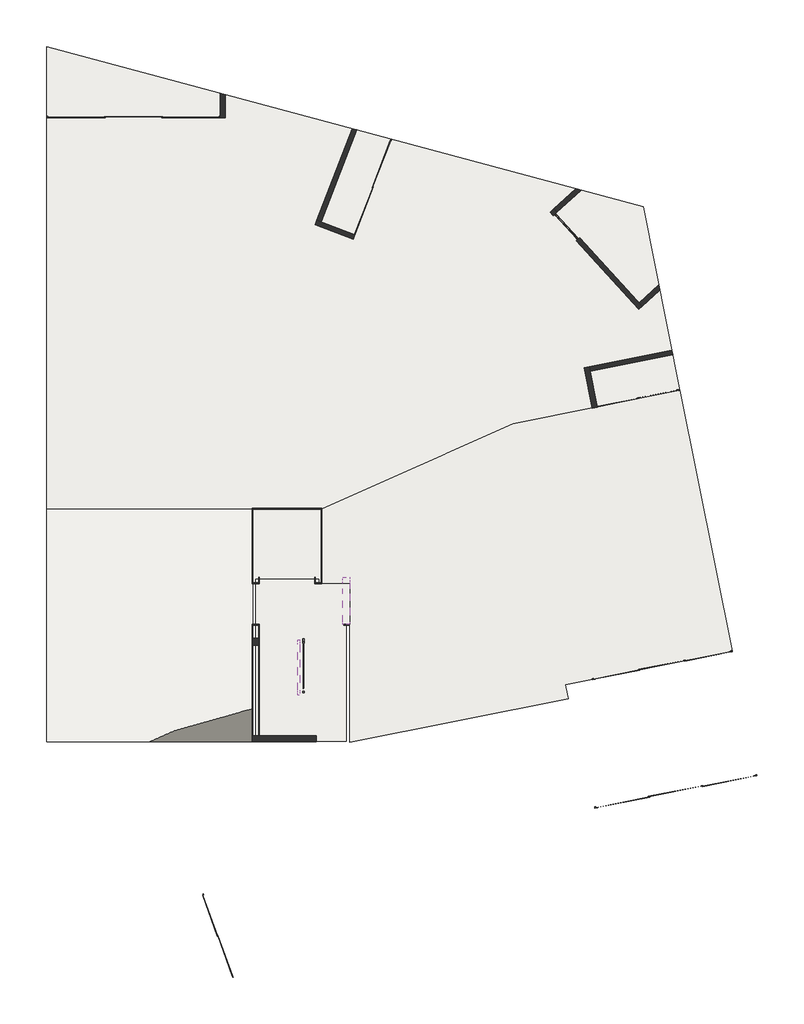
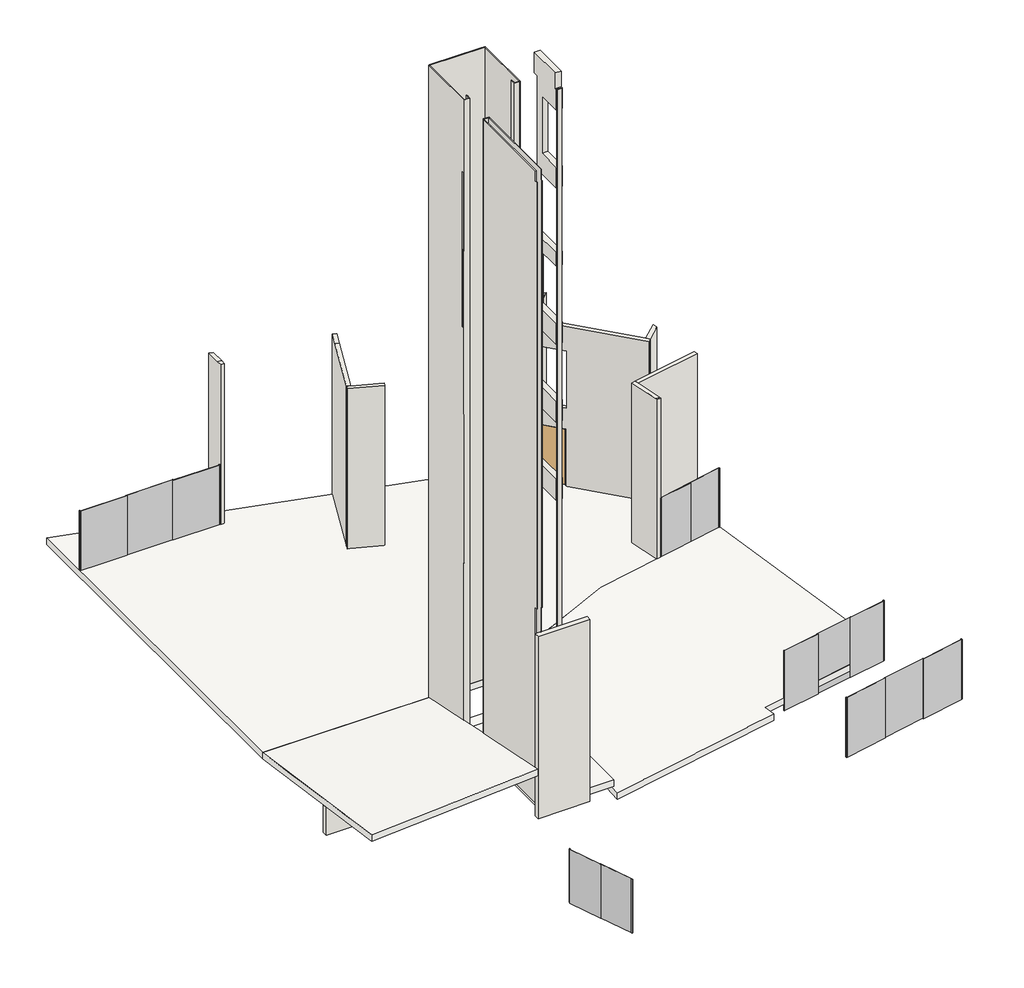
# One storey, incomplete: 22 walls, 6 furniture elements, 5 slabs, 2 railings, 1 door.
"""IFC4 building model written with IfcOpenShell, lengths in millimetres."""

from ifc_helpers import new_model, si_unit, frame, origin, place, context, project, spatial, polyline, outline, extrude, faceted_brep, transform, mapped, element, save
from ifc_brep_helpers import plane_surface, spline_surface, advanced_brep
from components import door_b94a3739, furniture_f1b7d8eb, furniture_cfb692ec, furniture_4dd8e650, furniture_5b101463, furniture_70a1527a, furniture_b4357b38, railing_b4604de3, railing_f5d033c7

model = new_model("IFC4")

# Units and contexts
model_context = context("Model", 3, world=origin())
ifc_project = project(units=[si_unit("LENGTHUNIT", "METRE", prefix="MILLI")], contexts=[model_context])

# Site, building, storey
site = spatial("IfcSite", under=ifc_project)
building = spatial("IfcBuilding", under=site)
storey = spatial("IfcBuildingStorey", under=building, Name="SÓTANO 2", Elevation=-6500.0)

# Door
placement = place(None, origin())
door_shape = door_b94a3739(model_context)
element("IfcDoor", 1, ObjectType="Puerta Metalica-lisa : PH2-Puerta Metalica lisa simple", at=placement, inside=storey, context=model_context, shape_type="MappedRepresentation", body=[
    mapped(door_shape, transform((49477.9969526, 40222.2993983, -6500.0), x_axis=(-0.6739713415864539, 0.7387574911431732, 0.0), y_axis=(-0.7387574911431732, -0.6739713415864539, 0.0), z_axis=(0.0, 0.0, 1.0))),
])

# Furniture
furniture_shape = furniture_f1b7d8eb(model_context)
element("IfcFurniture", 2, ObjectType="Puerta Closet corre 3 hojas : Puerta corrdiza 3 hojas PCLE-01", at=placement, inside=storey, context=model_context, shape_type="MappedRepresentation", body=[
    mapped(furniture_shape, transform((35474.5059119, 43346.4541486, -6500.0), x_axis=(1.0, 0.0, 0.0), y_axis=(0.0, 1.0, 0.0), z_axis=(0.0, 0.0, 1.0))),
])
furniture_2_shape = furniture_cfb692ec(model_context)
element("IfcFurniture", 3, ObjectType="Puerta Closet corre 3 hojas : Puerta corrdiza 3 hojas PCLE-04", at=placement, inside=storey, context=model_context, shape_type="MappedRepresentation", body=[
    mapped(furniture_2_shape, transform((51525.4137061, 27065.8247828, -7472.6920924), x_axis=(0.9805261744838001, 0.19638844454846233, 0.0), y_axis=(-0.19638844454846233, 0.9805261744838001, 0.0), z_axis=(0.0, 0.0, 1.0))),
])
furniture_3_shape = furniture_4dd8e650(model_context)
element("IfcFurniture", 4, ObjectType="Puerta Closet corre 3 hojas : Puerta corrdiza 3 hojas PCLE-05", at=placement, inside=storey, context=model_context, shape_type="MappedRepresentation", body=[
    mapped(furniture_3_shape, transform((51599.0261829, 23286.6871558, -7000.0), x_axis=(0.9805261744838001, 0.19638844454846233, 0.0), y_axis=(-0.19638844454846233, 0.9805261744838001, 0.0), z_axis=(0.0, 0.0, 1.0))),
])
furniture_4_shape = furniture_5b101463(model_context)
element("IfcFurniture", 5, ObjectType="Puerta Closet corre 2 hojas : Puerta corrdiza 2 hojas PCLE-02", at=placement, inside=storey, context=model_context, shape_type="MappedRepresentation", body=[
    mapped(furniture_4_shape, transform((44066.2505048, 41850.3583387, -6500.0), x_axis=(0.36197507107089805, 0.9321877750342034, 0.0), y_axis=(-0.9321877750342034, 0.36197507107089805, 0.0), z_axis=(0.0, 0.0, 1.0))),
])
furniture_5_shape = furniture_70a1527a(model_context)
element("IfcFurniture", 6, ObjectType="Puerta Closet corre 2 hojas : Puerta corrdiza 2 hojas PCLE-03", at=placement, inside=storey, context=model_context, shape_type="MappedRepresentation", body=[
    mapped(furniture_5_shape, transform((52142.5706861, 35186.7782889, -6500.0), x_axis=(0.98052617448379, 0.1963884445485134, 0.0), y_axis=(-0.1963884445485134, 0.98052617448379, 0.0), z_axis=(0.0, 0.0, 1.0))),
])
furniture_6_shape = furniture_b4357b38(model_context)
element("IfcFurniture", 7, ObjectType="Puerta Closet corre 2 hojas : Puerta corrdiza 2 hojas PCLE-06", at=placement, inside=storey, context=model_context, shape_type="MappedRepresentation", body=[
    mapped(furniture_6_shape, transform((39130.8493403, 19903.1443848, -7000.0), x_axis=(-0.33567692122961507, 0.9419771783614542, 0.0), y_axis=(-0.9419771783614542, -0.33567692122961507, 0.0), z_axis=(0.0, 0.0, 1.0))),
])

# Railings
railing_shape = railing_b4604de3(model_context)
element("IfcRailing", 8, ObjectType="Barandal escalera", at=placement, inside=storey, context=model_context, shape_type="MappedRepresentation", body=[
    mapped(railing_shape, transform((0.0, 0.0, 0.0), x_axis=(1.0, 0.0, 0.0), y_axis=(0.0, 1.0, 0.0), z_axis=(0.0, 0.0, 1.0))),
])
railing_2_shape = railing_f5d033c7(model_context)
element("IfcRailing", 9, ObjectType="Barandal escalera", at=placement, inside=storey, context=model_context, shape_type="MappedRepresentation", body=[
    mapped(railing_2_shape, transform((0.0, 0.0, 0.0), x_axis=(1.0, 0.0, 0.0), y_axis=(0.0, 1.0, 0.0), z_axis=(0.0, 0.0, 1.0))),
])

# Slabs
element("IfcSlab", 10, ObjectType="Losa sótano en rampa", at=placement, inside=storey, context=model_context, shape_type="AdvancedBrep", body=[
    advanced_brep(
    [(34183.8589874, 25064.0112971, -5750.0), (34183.8589874, 25064.0112971, -5500.0), (34183.8589874, 31918.9733508, -6500.0), (34183.8589874, 31918.9733508, -6750.0), (40254.5059119, 31918.9733508, -6500.0), (40254.5059119, 31918.9733508, -6750.0), (40254.5059119, 29724.010184, -6051.7191183), (40254.5059119, 28524.010184, -5806.6411752), (40254.5059119, 25064.0112971, -5100.0), (40254.5059119, 25064.0112971, -5350.0), (40254.5059119, 28524.010184, -6056.6411752), (40254.5059119, 29724.010184, -6301.7191183)],
    [
        (0, 1),
        (1, 2),
        (2, 3),
        (3, 0),
        (2, 4),
        (4, 5),
        (5, 3),
        (4, 6),
        (6, 7),
        (7, 8),
        (8, 9),
        (9, 10),
        (10, 11),
        (11, 5),
        (8, 1),
        (0, 9),
    ],
    [
        plane_surface(frame((34183.8589874, 25064.0112971, -6750.0), z_axis=(-1.0, 0.0, 0.0), x_axis=(0.0, 0.0, 1.0))),
        plane_surface(frame((34183.8589874, 31918.9733508, -6750.0), z_axis=(0.0, 1.0, 0.0), x_axis=(0.0, 0.0, 1.0))),
        plane_surface(frame((40254.5059119, 31918.9733508, -6750.0), z_axis=(1.0, 0.0, 0.0), x_axis=(0.0, 0.0, 1.0))),
        plane_surface(frame((40254.5059119, 25064.0112971, -6750.0), z_axis=(0.0, -1.0, 0.0), x_axis=(0.0, 0.0, 1.0))),
        spline_surface(1, 1, [[(34183.8589874, 31918.9733508, -6500.0), (40254.5059119, 31918.9733508, -6500.0)], [(34183.8589874, 25064.0112971, -5500.0), (40254.5059119, 25064.0112971, -5100.0)]], [2, 2], [2, 2], [0.0, 1.0], [0.0, 1.0]),
        spline_surface(1, 1, [[(34183.8589874, 31918.9733508, -6750.0), (34183.8589874, 25064.0112971, -5750.0)], [(40254.5059119, 31918.9733508, -6750.0), (40254.5059119, 25064.0112971, -5350.0)]], [2, 2], [2, 2], [0.0, 1.0], [0.0, 1.0]),
    ],
    [
        (0, [[1, 2, 3, 4]]),
        (1, [[-3, 5, 6, 7]]),
        (2, [[-6, 8, 9, 10, 11, 12, 13, 14]]),
        (3, [[-11, 15, -1, 16]]),
        (4, [[-5, -2, -15, -10, -9, -8]]),
        (5, [[-14, -13, -12, -16, -4, -7]]),
    ],
),
])
element("IfcSlab", 11, ObjectType="Losa sótano 2 CIMENTACION", at=placement, inside=storey, context=model_context, shape_type="SweptSolid", body=[
    extrude(outline(polyline([(34183.8589874, 31918.9733508), (34183.8589874, 45520.6970613), (51731.7881803, 40802.0933929), (52813.3298443, 35402.1834706), (47910.6989719, 34420.2412478), (42279.5059119, 31918.9733508), (34183.8589874, 31918.9733508)])), frame((0.0, 0.0, -6750.0), z_axis=(0.0, 0.0, 1.0), x_axis=(1.0, 0.0, 0.0)), (0.0, 0.0, 1.0), 250.0),
])
element("IfcSlab", 12, ObjectType="Losa sótano en rampa 2 CIMENTACION", at=placement, inside=storey, context=model_context, shape_type="Brep", body=[
    faceted_brep([(54349.3007676, 27733.4038894, -7223.208373), (49446.6698952, 26751.4616666, -7223.208373), (49530.0749438, 26335.0378115, -7250.5162806), (43109.5059119, 25049.0695242, -7250.5162806), (43109.5059119, 29724.010184, -6955.7706944), (42279.5059119, 29724.010184, -6945.2896143), (42279.5059119, 31919.4931914, -6806.8688356), (47910.3701921, 34420.7046322, -6720.2779647), (52813.2279327, 35402.6922941, -6720.2779647), (54349.3007676, 27733.4038894, -6972.6920924), (52813.2279327, 35402.6922941, -6469.7616841), (47910.3701921, 34420.7046322, -6469.7616841), (42279.5059119, 31919.4931914, -6556.352555), (42279.5059119, 29724.010184, -6694.7733336), (43109.5059119, 29724.010184, -6705.2544137), (43109.5059119, 25049.0695242, -7000.0), (49530.0749438, 26335.0378115, -7000.0), (49446.6698952, 26751.4616666, -6972.6920924)], [[[0, 1, 2, 3, 4, 5, 6, 7, 8]], [[9, 10, 11, 12, 13, 14, 15, 16, 17]], [[0, 8, 10, 9]], [[3, 2, 16, 15]], [[4, 3, 15, 14]], [[5, 4, 14, 13]], [[6, 5, 13, 12]], [[7, 6, 12, 11]], [[8, 7, 11, 10]], [[1, 0, 9, 17]], [[2, 1, 17, 16]]]),
])
element("IfcSlab", 13, ObjectType="Losa sótano", at=placement, inside=storey, context=model_context, shape_type="SweptSolid", body=[
    extrude(outline(polyline([(40339.5059119, 25084.0112971), (40339.5059119, 29855.2733508), (42184.5059119, 29855.2733508), (42184.5059119, 29724.010184), (43109.5059119, 29724.010184), (43109.5059119, 28524.010184), (43004.5059119, 28524.010184), (43004.5059119, 25084.0112971), (40339.5059119, 25084.0112971)])), frame((0.0, 0.0, -6750.0), z_axis=(0.0, 0.0, 1.0), x_axis=(1.0, 0.0, 0.0)), (0.0, 0.0, 1.0), 250.0),
])
element("IfcSlab", 14, ObjectType="Losa sótano", at=placement, inside=storey, context=model_context, shape_type="SweptSolid", body=[
    extrude(outline(polyline([(40254.5059119, 31913.9733508), (42259.5059119, 31913.9733508), (42259.5059119, 29724.010184), (40254.5059119, 29724.010184), (40254.5059119, 31913.9733508)])), frame((0.0, 0.0, -8050.0), z_axis=(0.0, 0.0, 1.0), x_axis=(1.0, 0.0, 0.0)), (0.0, 0.0, 1.0), 250.0),
])

# Walls
element("IfcWall", 15, ObjectType="Muro Concreto - 17 cm + enjarre (21)", at=placement, inside=storey, context=model_context, shape_type="Brep", body=[
    faceted_brep([(42899.5059119, 29724.010184, 5200.0), (42899.5059119, 28524.010184, 5200.0), (42899.5059119, 28524.010184, 6000.0), (42899.5059119, 29724.010184, 6000.0), (43109.5059119, 28524.010184, 5200.0), (43109.5059119, 29724.010184, 5200.0), (43109.5059119, 29724.010184, 6000.0), (43109.5059119, 28524.010184, 6000.0)], [[[0, 1, 2, 3]], [[4, 5, 6, 7]], [[1, 4, 7, 2]], [[1, 0, 5, 4]], [[3, 2, 7, 6]], [[0, 3, 6, 5]]]),
    faceted_brep([(42899.5059119, 28524.010184, 3000.0), (42899.5059119, 29724.010184, 3000.0), (42899.5059119, 29724.010184, 2200.0), (42899.5059119, 28524.010184, 2200.0), (43109.5059119, 29724.010184, 3000.0), (43109.5059119, 28524.010184, 3000.0), (43109.5059119, 28524.010184, 2200.0), (43109.5059119, 29724.010184, 2200.0)], [[[0, 1, 2, 3]], [[4, 5, 6, 7]], [[3, 6, 5, 0]], [[1, 0, 5, 4]], [[3, 2, 7, 6]], [[7, 2, 1, 4]]]),
    faceted_brep([(42899.5059119, 29724.010184, 14200.0), (42899.5059119, 28524.010184, 14200.0), (42899.5059119, 28524.010184, 15000.0), (42899.5059119, 29424.010184, 15000.0), (42899.5059119, 29424.010184, 17200.0), (42899.5059119, 28524.010184, 17200.0), (42899.5059119, 28524.010184, 18000.0), (42899.5059119, 28583.8772196, 18000.0), (42899.5059119, 28583.8772196, 18600.0), (42899.5059119, 29904.010184, 18600.0), (42899.5059119, 29904.010184, 17800.0), (42899.5059119, 29724.010184, 17800.0), (43109.5059119, 28524.010184, 14200.0), (43109.5059119, 29724.010184, 14200.0), (43109.5059119, 29724.010184, 17800.0), (43109.5059119, 29739.010184, 17800.0), (43109.5059119, 29904.010184, 17800.0), (43109.5059119, 29904.010184, 18000.0), (43109.5059119, 29904.010184, 18600.0), (43109.5059119, 29724.010184, 18600.0), (43109.5059119, 28583.8772196, 18600.0), (43109.5059119, 28583.8772196, 18000.0), (43109.5059119, 28524.010184, 18000.0), (43109.5059119, 28524.010184, 17200.0), (43109.5059119, 29424.010184, 17200.0), (43109.5059119, 29424.010184, 15000.0), (43109.5059119, 28524.010184, 15000.0), (43089.5059119, 28524.010184, 18000.0), (42919.5059119, 28524.010184, 18000.0)], [[[0, 1, 2, 3, 4, 5, 6, 7, 8, 9, 10, 11]], [[12, 13, 14, 15, 16, 17, 18, 19, 20, 21, 22, 23, 24, 25, 26]], [[1, 12, 26, 2]], [[5, 23, 22, 27, 28, 6]], [[9, 8, 20, 19, 18]], [[1, 0, 13, 12]], [[3, 25, 24, 4]], [[4, 24, 23, 5]], [[25, 3, 2, 26]], [[21, 7, 6, 28, 27, 22]], [[7, 21, 20, 8]], [[9, 18, 17, 16, 10]], [[16, 15, 14, 11, 10]], [[11, 14, 13, 0]]]),
    faceted_brep([(42899.5059119, 29724.010184, 8200.0), (42899.5059119, 28524.010184, 8200.0), (42899.5059119, 28524.010184, 9000.0), (42899.5059119, 29724.010184, 9000.0), (42899.5059119, 29724.010184, 8720.0), (42899.5059119, 29724.010184, 11200.0), (42899.5059119, 28524.010184, 11200.0), (42899.5059119, 28524.010184, 11720.0), (42899.5059119, 29814.010184, 11720.0), (42899.5059119, 29814.010184, 9000.0), (43109.5059119, 28524.010184, 8200.0), (43109.5059119, 29724.010184, 8200.0), (43109.5059119, 29724.010184, 8720.0), (43109.5059119, 29724.010184, 9000.0), (43109.5059119, 28524.010184, 9000.0), (43109.5059119, 29724.010184, 11200.0), (43109.5059119, 29814.010184, 9000.0), (43109.5059119, 29814.010184, 11720.0), (43109.5059119, 28524.010184, 11720.0), (43109.5059119, 28524.010184, 11200.0), (42954.5059119, 29814.010184, 9000.0), (43074.5059119, 29814.010184, 9000.0)], [[[0, 1, 2, 3, 4]], [[3, 5, 6, 7, 8, 9]], [[10, 11, 12, 13, 14]], [[15, 13, 16, 17, 18, 19]], [[1, 10, 14, 2]], [[6, 19, 18, 7]], [[1, 0, 11, 10]], [[15, 5, 3, 13]], [[5, 15, 19, 6]], [[13, 3, 2, 14]], [[9, 20, 21, 16, 13, 3]], [[16, 21, 20, 9, 8, 17]], [[4, 3, 13, 12, 11, 0]], [[8, 7, 18, 17]]]),
])
element("IfcWall", 16, ObjectType="Muro Contención - 20 cm", at=placement, inside=storey, context=model_context, shape_type="AdvancedBrep", body=[
    advanced_brep(
    [(40424.5059119, 28111.0432167, -7250.0), (34183.8589874, 28111.0432167, -7250.0), (34183.8589874, 28111.0432167, -6194.5001877), (40254.5059119, 28111.0432167, -5972.3002628), (40254.5059119, 28111.0432167, -3500.0), (40424.5059119, 28111.0432167, -3500.0), (40424.5059119, 27911.0432167, -7250.0), (40424.5059119, 27911.0432167, -3500.0), (40254.5059119, 27911.0432167, -3500.0), (40254.5059119, 27911.0432167, -5931.4539389), (34183.8589874, 27911.0432167, -6165.3242421), (34183.8589874, 27911.0432167, -7250.0)],
    [
        (0, 1),
        (1, 2),
        (2, 3),
        (3, 4),
        (4, 5),
        (5, 0),
        (6, 7),
        (7, 8),
        (8, 9),
        (9, 10),
        (10, 11),
        (11, 6),
        (0, 6),
        (11, 1),
        (10, 2),
        (4, 8),
        (7, 5),
        (3, 9),
    ],
    [
        plane_surface(frame((39454.5059119, 28111.0432167, -7250.0), z_axis=(0.0, 1.0, 0.0), x_axis=(-1.0, 0.0, 0.0))),
        plane_surface(frame((39454.5059119, 27911.0432167, -7250.0), z_axis=(0.0, -1.0, 0.0), x_axis=(1.0, 0.0, 0.0))),
        plane_surface(frame((40434.5059119, 28111.0432167, -7250.0), z_axis=(0.0, 0.0, -1.0), x_axis=(0.0, -1.0, 0.0))),
        plane_surface(frame((34183.8589874, 22969.7826811, -7000.0), z_axis=(-1.0, 0.0, 0.0), x_axis=(0.0, 1.0, 0.0))),
        plane_surface(frame((34083.8589874, 28111.0432167, -3500.0), z_axis=(0.0, 0.0, 1.0), x_axis=(0.0, -1.0, 0.0))),
        plane_surface(frame((40254.5059119, 31918.9733508, -6750.0), z_axis=(-1.0, 0.0, 0.0), x_axis=(0.0, 0.0, 1.0))),
        spline_surface(1, 1, [[(34183.8589874, 31918.9733508, -6750.0), (40254.5059119, 31918.9733508, -6750.0)], [(34183.8589874, 25064.0112971, -5750.0), (40254.5059119, 25064.0112971, -5350.0)]], [2, 2], [2, 2], [0.0, 1.0], [0.0, 1.0]),
        plane_surface(frame((40424.5059119, 28504.010184, -6500.0), z_axis=(1.0, 0.0, 0.0), x_axis=(0.0, -1.0, 0.0))),
    ],
    [
        (0, [[1, 2, 3, 4, 5, 6]]),
        (1, [[7, 8, 9, 10, 11, 12]]),
        (2, [[-1, 13, -12, 14]]),
        (3, [[-2, -14, -11, 15]]),
        (4, [[-5, 16, -8, 17]]),
        (5, [[-16, -4, 18, -9]]),
        (6, [[-3, -15, -10, -18]]),
        (7, [[-6, -17, -7, -13]]),
    ],
),
])
element("IfcWall", 17, ObjectType="Muro solo enjarre -2cms", at=placement, inside=storey, context=model_context, shape_type="Brep", body=[
    faceted_brep([(40234.5059119, 28504.010184, -6500.0), (40254.5059119, 28504.010184, -6500.0), (40424.5059119, 28504.010184, -6500.0), (40444.5059119, 28504.010184, -6500.0), (40444.5059119, 28504.010184, 17800.0), (40424.5059119, 28504.010184, 17800.0), (40254.5059119, 28504.010184, 17800.0), (40234.5059119, 28504.010184, 17800.0), (40234.5059119, 28524.010184, -6500.0), (40234.5059119, 28524.010184, -6057.2938322), (40234.5059119, 28524.010184, -5807.2938322), (40234.5059119, 28524.010184, -3188.1607721), (40234.5059119, 28524.010184, -2934.7493163), (40234.5059119, 28524.010184, 0.0), (40234.5059119, 28524.010184, 2200.0), (40234.5059119, 28524.010184, 3000.0), (40234.5059119, 28524.010184, 5200.0), (40234.5059119, 28524.010184, 6000.0), (40234.5059119, 28524.010184, 8200.0), (40234.5059119, 28524.010184, 9000.0), (40234.5059119, 28524.010184, 11200.0), (40234.5059119, 28524.010184, 12000.0), (40234.5059119, 28524.010184, 14200.0), (40234.5059119, 28524.010184, 15000.0), (40234.5059119, 28524.010184, 17200.0), (40234.5059119, 28524.010184, 17800.0), (40444.5059119, 28524.010184, 17800.0), (40444.5059119, 28524.010184, 17200.0), (40444.5059119, 28524.010184, 15000.0), (40444.5059119, 28524.010184, 14200.0), (40444.5059119, 28524.010184, 12000.0), (40444.5059119, 28524.010184, 11200.0), (40444.5059119, 28524.010184, 9000.0), (40444.5059119, 28524.010184, 8200.0), (40444.5059119, 28524.010184, 6000.0), (40444.5059119, 28524.010184, 5200.0), (40444.5059119, 28524.010184, 3000.0), (40444.5059119, 28524.010184, 2200.0), (40444.5059119, 28524.010184, 0.0), (40444.5059119, 28524.010184, -6500.0)], [[[0, 1, 2, 3, 4, 5, 6, 7]], [[8, 9, 10, 11, 12, 13, 14, 15, 16, 17, 18, 19, 20, 21, 22, 23, 24, 25, 26, 27, 28, 29, 30, 31, 32, 33, 34, 35, 36, 37, 38, 39]], [[3, 2, 1, 0, 8, 39]], [[4, 3, 39, 38, 37, 36, 35, 34, 33, 32, 31, 30, 29, 28, 27, 26]], [[0, 7, 25, 24, 23, 22, 21, 20, 19, 18, 17, 16, 15, 14, 13, 12, 11, 10, 9, 8]], [[7, 6, 5, 4, 26, 25]]]),
])
element("IfcWall", 18, ObjectType="Muro solo enjarre -2cms", at=placement, inside=storey, context=model_context, shape_type="SweptSolid", body=[
    extrude(outline(polyline([(28504.010184, -6500.0), (25244.0112971, -6500.0), (25244.0112971, 0.0), (25224.0112971, 0.0), (25224.0112971, 1000.0), (25154.0112971, 1000.0), (25154.0112971, 17400.0), (25224.0112971, 17400.0), (25224.0112971, 17800.0), (28504.010184, 17800.0), (28504.010184, -6500.0)])), frame((40424.5059119, 0.0, 0.0), z_axis=(1.0, 0.0, 0.0), x_axis=(0.0, 1.0, 0.0)), (0.0, 0.0, 1.0), 20.0),
])
element("IfcWall", 19, ObjectType="Muro solo enjarre -2cms", at=placement, inside=storey, context=model_context, shape_type="SweptSolid", body=[
    extrude(outline(polyline([(25244.0112971, -6500.0), (25244.0112971, 0.0), (25224.0112971, 0.0), (25224.0112971, 1000.0), (25154.0112971, 1000.0), (25154.0112971, 17400.0), (25224.0112971, 17400.0), (25224.0112971, 17800.0), (28041.0432167, 17800.0), (28504.010184, 17800.0), (28504.010184, -6500.0), (25244.0112971, -6500.0)])), frame((40234.5059119, 0.0, 0.0), z_axis=(1.0, 0.0, 0.0), x_axis=(0.0, 1.0, 0.0)), (0.0, 0.0, 1.0), 20.0),
])
element("IfcWall", 20, ObjectType="Muro solo enjarre -2cms", at=placement, inside=storey, context=model_context, shape_type="Brep", body=[
    faceted_brep([(42919.5059119, 28504.010184, -6500.0), (43089.5059119, 28504.010184, -6500.0), (43089.5059119, 28504.010184, 18000.0), (42919.5059119, 28504.010184, 18000.0), (42919.5059119, 28524.010184, -6500.0), (42919.5059119, 28524.010184, 18000.0), (43089.5059119, 28524.010184, 18000.0), (43089.5059119, 28524.010184, 0.0), (43089.5059119, 28524.010184, -280.0), (43089.5059119, 28524.010184, -6500.0)], [[[0, 1, 2, 3]], [[4, 5, 6, 7, 8, 9]], [[1, 0, 4, 9]], [[3, 2, 6, 5]], [[0, 3, 5, 4]], [[2, 1, 9, 8, 7, 6]]]),
])
element("IfcWall", 21, ObjectType="Muro solo enjarre -2cms", at=placement, inside=storey, context=model_context, shape_type="Brep", body=[
    faceted_brep([(40444.5059119, 29744.010184, -6500.0), (40424.5059119, 29744.010184, -6500.0), (40254.5059119, 29744.010184, -6500.0), (40234.5059119, 29744.010184, -6500.0), (40234.5059119, 29744.010184, 0.0), (40244.5059119, 29744.010184, 0.0), (40244.5059119, 29744.010184, 5720.0), (40234.5059119, 29744.010184, 5720.0), (40234.5059119, 29744.010184, 9000.0), (40234.5059119, 29744.010184, 12000.0), (40244.5059119, 29744.010184, 12000.0), (40244.5059119, 29744.010184, 15000.0), (40244.5059119, 29744.010184, 17800.0), (40254.5059119, 29744.010184, 17800.0), (40424.5059119, 29744.010184, 17800.0), (40444.5059119, 29744.010184, 17800.0), (40444.5059119, 29744.010184, 6000.0), (40444.5059119, 29744.010184, 5720.0), (40234.5059119, 29724.010184, -6500.0), (40444.5059119, 29724.010184, -6500.0), (40444.5059119, 29724.010184, 0.0), (40444.5059119, 29724.010184, 2200.0), (40444.5059119, 29724.010184, 3000.0), (40444.5059119, 29724.010184, 5200.0), (40444.5059119, 29724.010184, 6000.0), (40444.5059119, 29724.010184, 8200.0), (40444.5059119, 29724.010184, 9000.0), (40444.5059119, 29724.010184, 11200.0), (40444.5059119, 29724.010184, 12000.0), (40444.5059119, 29724.010184, 14200.0), (40444.5059119, 29724.010184, 17800.0), (40244.5059119, 29724.010184, 17800.0), (40244.5059119, 29724.010184, 15000.0), (40244.5059119, 29724.010184, 12000.0), (40234.5059119, 29724.010184, 12000.0), (40234.5059119, 29724.010184, 11200.0), (40234.5059119, 29724.010184, 9000.0), (40234.5059119, 29724.010184, 8200.0), (40234.5059119, 29724.010184, 6000.0), (40234.5059119, 29724.010184, 5720.0), (40244.5059119, 29724.010184, 5720.0), (40244.5059119, 29724.010184, 0.0), (40234.5059119, 29724.010184, 0.0), (40234.5059119, 29724.010184, -3133.6666615), (40234.5059119, 29724.010184, -3387.0781173), (40234.5059119, 29724.010184, -6052.141084), (40234.5059119, 29724.010184, -6302.141084)], [[[0, 1, 2, 3, 4, 5, 6, 7, 8, 9, 10, 11, 12, 13, 14, 15, 16, 17]], [[18, 19, 20, 21, 22, 23, 24, 25, 26, 27, 28, 29, 30, 31, 32, 33, 34, 35, 36, 37, 38, 39, 40, 41, 42, 43, 44, 45, 46]], [[3, 2, 1, 0, 19, 18]], [[0, 17, 16, 15, 30, 29, 28, 27, 26, 25, 24, 23, 22, 21, 20, 19]], [[41, 5, 4, 42]], [[4, 3, 18, 46, 45, 44, 43, 42]], [[15, 14, 13, 12, 31, 30]], [[5, 41, 40, 6]], [[7, 6, 40, 39]], [[33, 10, 9, 34]], [[10, 33, 32, 31, 12, 11]], [[9, 8, 7, 39, 38, 37, 36, 35, 34]]]),
])
element("IfcWall", 22, ObjectType="Muro solo enjarre -2cms", at=placement, inside=storey, context=model_context, shape_type="Brep", body=[
    faceted_brep([(40254.5059119, 29744.010184, -6500.0), (40254.5059119, 31913.9733508, -6500.0), (40254.5059119, 31933.9733508, -6500.0), (40254.5059119, 31933.9733508, 17800.0), (40254.5059119, 31913.9733508, 17800.0), (40254.5059119, 29744.010184, 17800.0), (40254.5059119, 29744.010184, 15000.0), (40254.5059119, 29744.010184, 12000.0), (40254.5059119, 29864.010184, 12000.0), (40254.5059119, 29864.010184, 9000.0), (40254.5059119, 29744.010184, 9000.0), (40234.5059119, 31933.9733508, -6500.0), (40234.5059119, 29744.010184, -6500.0), (40234.5059119, 29744.010184, 0.0), (40234.5059119, 29744.010184, 5720.0), (40234.5059119, 29744.010184, 9000.0), (40234.5059119, 29864.010184, 9000.0), (40234.5059119, 29864.010184, 12000.0), (40234.5059119, 29864.010184, 15000.0), (40234.5059119, 29744.010184, 15000.0), (40234.5059119, 29744.010184, 17800.0), (40234.5059119, 29864.010184, 17800.0), (40234.5059119, 31304.0104769, 17800.0), (40234.5059119, 31424.0104769, 17800.0), (40234.5059119, 31813.9733508, 17800.0), (40234.5059119, 31933.9733508, 17800.0), (40234.5059119, 31933.9733508, 15000.0), (40234.5059119, 31933.9733508, 14720.0), (40234.5059119, 31933.9733508, 12000.0), (40234.5059119, 31933.9733508, 9000.0), (40234.5059119, 31933.9733508, 6000.0), (40234.5059119, 31933.9733508, 3000.0), (40234.5059119, 31933.9733508, 0.0), (40244.5059119, 29744.010184, 12000.0), (40244.5059119, 29864.010184, 12000.0), (40244.5059119, 29864.010184, 15000.0), (40244.5059119, 29744.010184, 15000.0), (40244.5059119, 29744.010184, 17800.0)], [[[0, 1, 2, 3, 4, 5, 6, 7, 8, 9, 10]], [[11, 12, 13, 14, 15, 16, 17, 18, 19, 20, 21, 22, 23, 24, 25, 26, 27, 28, 29, 30, 31, 32]], [[2, 1, 0, 12, 11]], [[3, 2, 11, 32, 31, 30, 29, 28, 27, 26, 25]], [[16, 15, 10, 9]], [[8, 7, 33, 34]], [[0, 10, 15, 14, 13, 12]], [[9, 8, 34, 17, 16]], [[19, 18, 35, 36]], [[7, 6, 36, 33]], [[5, 4, 3, 25, 24, 23, 22, 21, 20, 37]], [[36, 35, 34, 33]], [[18, 17, 34, 35]], [[19, 36, 6, 5, 37, 20]]]),
])
element("IfcWall", 23, ObjectType="Muro solo enjarre -2cms", at=placement, inside=storey, context=model_context, shape_type="Brep", body=[
    faceted_brep([(40254.5059119, 31913.9733508, 17800.0), (40254.5059119, 31913.9733508, -6500.0), (42259.5059119, 31913.9733508, -6500.0), (42259.5059119, 31913.9733508, 17800.0), (40254.5059119, 31933.9733508, -6500.0), (40254.5059119, 31933.9733508, 17800.0), (42084.5059119, 31933.9733508, 17800.0), (42259.5059119, 31933.9733508, 17800.0), (42259.5059119, 31933.9733508, -6500.0)], [[[0, 1, 2, 3]], [[4, 5, 6, 7, 8]], [[2, 1, 4, 8]], [[0, 3, 7, 6, 5]], [[2, 8, 7, 3]], [[0, 5, 4, 1]]]),
])
element("IfcWall", 24, ObjectType="Muro solo enjarre -2cms", at=placement, inside=storey, context=model_context, shape_type="Brep", body=[
    faceted_brep([(42259.5059119, 31933.9733508, 17800.0), (42259.5059119, 31933.9733508, -6500.0), (42259.5059119, 31913.9733508, -6500.0), (42259.5059119, 29744.010184, -6500.0), (42259.5059119, 29724.010184, -6500.0), (42259.5059119, 29724.010184, 17800.0), (42259.5059119, 29744.010184, 17800.0), (42259.5059119, 31913.9733508, 17800.0), (42279.5059119, 31933.9733508, -6500.0), (42279.5059119, 31933.9733508, 17800.0), (42279.5059119, 31444.0104755, 17800.0), (42279.5059119, 31324.0104755, 17800.0), (42279.5059119, 29724.010184, 17800.0), (42279.5059119, 29724.010184, 8720.0), (42279.5059119, 29724.010184, 8200.0), (42279.5059119, 29724.010184, 6000.0), (42279.5059119, 29724.010184, 5200.0), (42279.5059119, 29724.010184, 2720.0), (42279.5059119, 29724.010184, 2200.0), (42279.5059119, 29724.010184, -6500.0), (42264.5059119, 31933.9733508, 17800.0)], [[[0, 1, 2, 3, 4, 5, 6, 7]], [[8, 9, 10, 11, 12, 13, 14, 15, 16, 17, 18, 19]], [[4, 3, 2, 1, 8, 19]], [[5, 4, 19, 18, 17, 16, 15, 14, 13, 12]], [[0, 7, 6, 5, 12, 11, 10, 9, 20]], [[0, 20, 9, 8, 1]]]),
])
element("IfcWall", 25, ObjectType="Muro solo enjarre -2cms", at=placement, inside=storey, context=model_context, shape_type="Brep", body=[
    faceted_brep([(42259.5059119, 29744.010184, 17800.0), (42259.5059119, 29744.010184, -6500.0), (42089.5059119, 29744.010184, -6500.0), (42069.5059119, 29744.010184, -6500.0), (42069.5059119, 29744.010184, 17800.0), (42089.5059119, 29744.010184, 17800.0), (42259.5059119, 29724.010184, -6500.0), (42259.5059119, 29724.010184, 17800.0), (42069.5059119, 29724.010184, 17800.0), (42069.5059119, 29724.010184, 17750.0), (42069.5059119, 29724.010184, 15850.0), (42069.5059119, 29724.010184, 15000.0), (42069.5059119, 29724.010184, -6500.0)], [[[0, 1, 2, 3, 4, 5]], [[6, 7, 8, 9, 10, 11, 12]], [[3, 2, 1, 6, 12]], [[0, 5, 4, 8, 7]], [[0, 7, 6, 1]], [[3, 12, 11, 10, 9, 8, 4]]]),
])
element("IfcWall", 26, ObjectType="Muro solo enjarre -2cms", at=placement, inside=storey, context=model_context, shape_type="Brep", body=[
    faceted_brep([(42089.5059119, 29744.010184, -6500.0), (42089.5059119, 29913.9733508, -6500.0), (42089.5059119, 29913.9733508, 17800.0), (42089.5059119, 29744.010184, 17800.0), (42069.5059119, 29744.010184, -6500.0), (42069.5059119, 29744.010184, 17800.0), (42069.5059119, 29864.010184, 17800.0), (42069.5059119, 29913.9733508, 17800.0), (42069.5059119, 29913.9733508, -6500.0)], [[[0, 1, 2, 3]], [[4, 5, 6, 7, 8]], [[1, 0, 4, 8]], [[2, 1, 8, 7]], [[0, 3, 5, 4]], [[3, 2, 7, 6, 5]]]),
])
element("IfcWall", 27, ObjectType="Muro solo enjarre -2cms", at=placement, inside=storey, context=model_context, shape_type="Brep", body=[
    faceted_brep([(40424.5059119, 29913.9733508, -6500.0), (40424.5059119, 29744.010184, -6500.0), (40424.5059119, 29744.010184, 5720.0), (40424.5059119, 29913.9733508, 5720.0), (40444.5059119, 29744.010184, -6500.0), (40444.5059119, 29913.9733508, -6500.0), (40444.5059119, 29913.9733508, 5720.0), (40444.5059119, 29744.010184, 5720.0)], [[[0, 1, 2, 3]], [[4, 5, 6, 7]], [[1, 0, 5, 4]], [[5, 0, 3, 6]], [[1, 4, 7, 2]], [[3, 2, 7, 6]]]),
    faceted_brep([(40424.5059119, 29744.010184, 17800.0), (40424.5059119, 29913.9733508, 17800.0), (40424.5059119, 29913.9733508, 6000.0), (40424.5059119, 29744.010184, 6000.0), (40424.5059119, 29744.010184, 15000.0), (40444.5059119, 29913.9733508, 17800.0), (40444.5059119, 29864.010184, 17800.0), (40444.5059119, 29744.010184, 17800.0), (40444.5059119, 29744.010184, 15850.0), (40444.5059119, 29744.010184, 15750.0), (40444.5059119, 29744.010184, 15000.0), (40444.5059119, 29744.010184, 6000.0), (40444.5059119, 29913.9733508, 6000.0)], [[[0, 1, 2, 3, 4]], [[5, 6, 7, 8, 9, 10, 11, 12]], [[1, 5, 12, 2]], [[7, 0, 4, 3, 11, 10, 9, 8]], [[1, 0, 7, 6, 5]], [[3, 2, 12, 11]]]),
])
element("IfcWall", 28, ObjectType="Muro block 14cms_int", at=placement, inside=storey, context=model_context, shape_type="Brep", body=[
    faceted_brep([(39434.5059119, 43418.9733508, -6500.0), (39434.5059119, 44108.8084238, -6500.0), (39434.5059119, 44108.8084238, -350.0), (39434.5059119, 43584.0676015, -350.0), (39434.5059119, 43418.9733508, -350.0), (39294.5059119, 43418.9733508, -6500.0), (39294.5059119, 43418.9733508, -350.0), (39294.5059119, 43621.8909715, -350.0), (39294.5059119, 44146.4541486, -350.0), (39294.5059119, 44146.4541486, -6500.0)], [[[0, 1, 2, 3, 4]], [[5, 6, 7, 8, 9]], [[1, 0, 5, 9]], [[0, 4, 6, 5]], [[2, 1, 9, 8]], [[3, 2, 8, 7]], [[4, 3, 7, 6]]]),
])
element("IfcWall", 29, ObjectType="Muro block 14cms_int", at=placement, inside=storey, context=model_context, shape_type="Brep", body=[
    faceted_brep([(43253.2463379, 39977.6532833, -6500.0), (42264.3941474, 40361.6315455, -6500.0), (42133.8878589, 40412.3080555, -6500.0), (42133.8878589, 40412.3080555, -350.0), (42264.3941474, 40361.6315455, -350.0), (43253.2463379, 39977.6532833, -350.0), (43202.5698279, 39847.1469948, -6500.0), (43202.5698279, 39847.1469948, -350.0), (42083.211349, 40281.801767, -350.0), (42083.211349, 40281.801767, -6500.0)], [[[0, 1, 2, 3, 4, 5]], [[6, 7, 8, 9]], [[2, 1, 0, 6, 9]], [[0, 5, 7, 6]], [[3, 2, 9, 8]], [[5, 4, 3, 8, 7]]]),
])
element("IfcWall", 30, ObjectType="Muro block 14cms_int", at=placement, inside=storey, context=model_context, shape_type="Brep", body=[
    faceted_brep([(42264.3941474, 40361.6315455, -6500.0), (43314.3367589, 43065.5295351, -6500.0), (43314.3367589, 43065.5295351, -350.0), (43128.1925027, 42586.1556392, -350.0), (42264.3941474, 40361.6315455, -350.0), (42133.8878589, 40412.3080555, -6500.0), (42133.8878589, 40412.3080555, -350.0), (42992.2677271, 42622.8780183, -350.0), (43178.3513422, 43102.0957464, -350.0), (43178.3513422, 43102.0957464, -6500.0)], [[[0, 1, 2, 3, 4]], [[5, 6, 7, 8, 9]], [[1, 0, 5, 9]], [[2, 1, 9, 8]], [[0, 4, 6, 5]], [[3, 2, 8, 7]], [[4, 3, 7, 6]]]),
])
element("IfcWall", 31, ObjectType="Muro block 14cms_int", at=placement, inside=storey, context=model_context, shape_type="Brep", body=[
    faceted_brep([(50381.2430397, 34915.0636394, -6500.0), (50171.1074041, 35964.2266461, -6500.0), (50143.6130218, 36101.5003105, -6500.0), (50143.6130218, 36101.5003105, -350.0), (50171.1074041, 35964.2266461, -350.0), (50373.4436779, 34954.0042114, -350.0), (50381.2430397, 34915.0636394, -350.0), (50243.9693753, 34887.5692572, -6500.0), (50243.9693753, 34887.5692572, -350.0), (50230.6631957, 34954.0042114, -350.0), (50006.3393574, 36074.0059283, -350.0), (50006.3393574, 36074.0059283, -6500.0)], [[[0, 1, 2, 3, 4, 5, 6]], [[7, 8, 9, 10, 11]], [[2, 1, 0, 7, 11]], [[0, 6, 8, 7]], [[3, 2, 11, 10]], [[6, 5, 9, 8]], [[5, 4, 3, 10, 9]]]),
])
element("IfcWall", 32, ObjectType="Muro block 14cms_int", at=placement, inside=storey, context=model_context, shape_type="SweptSolid", body=[
    extrude(outline(polyline([(52603.1942087, 36451.3464773), (50171.1074041, 35964.2266461), (50143.6130218, 36101.5003105), (52575.6998264, 36588.6201417), (52603.1942087, 36451.3464773)])), frame((0.0, 0.0, -6500.0), z_axis=(0.0, 0.0, 1.0), x_axis=(1.0, 0.0, 0.0)), (0.0, 0.0, 1.0), 6150.0),
])
element("IfcWall", 33, ObjectType="Muro block 14cms_int", at=placement, inside=storey, context=model_context, shape_type="Brep", body=[
    faceted_brep([(51603.2113616, 37788.934708, -6500.0), (51603.2113616, 37788.934708, -350.0), (48994.9422696, 40647.9261987, -350.0), (48994.9422696, 40647.9261987, -6500.0), (49089.2982575, 40544.50015, -6500.0), (49089.2982575, 40544.50015, -4300.0), (49763.269599, 39805.7426588, -4300.0), (49763.269599, 39805.7426588, -6500.0), (49089.2982575, 40544.50015, -3500.0), (49089.2982575, 40544.50015, -1300.0), (49763.269599, 39805.7426588, -1300.0), (49763.269599, 39805.7426588, -3500.0), (51706.6374103, 37883.2906958, -350.0), (51706.6374103, 37883.2906958, -6500.0), (51612.2814225, 37986.7167446, -6500.0), (49866.6956478, 39900.0986466, -6500.0), (49866.6956478, 39900.0986466, -4300.0), (49192.7243062, 40638.8561378, -4300.0), (49192.7243062, 40638.8561378, -6500.0), (49098.3683184, 40742.2821865, -6500.0), (49098.3683184, 40742.2821865, -350.0), (51612.2814225, 37986.7167446, -350.0), (49192.7243062, 40638.8561378, -3500.0), (49866.6956478, 39900.0986466, -3500.0), (49866.6956478, 39900.0986466, -1300.0), (49192.7243062, 40638.8561378, -1300.0)], [[[0, 1, 2, 3, 4, 5, 6, 7], [8, 9, 10, 11]], [[12, 13, 14, 15, 16, 17, 18, 19, 20, 21], [22, 23, 24, 25]], [[13, 0, 7, 15, 14]], [[3, 19, 18, 4]], [[1, 0, 13, 12]], [[2, 1, 12, 21, 20]], [[3, 2, 20, 19]], [[17, 5, 4, 18]], [[5, 17, 16, 6]], [[6, 16, 15, 7]], [[9, 8, 22, 25]], [[10, 9, 25, 24]], [[11, 10, 24, 23]], [[8, 11, 23, 22]]]),
])
element("IfcWall", 34, ObjectType="Muro block 14cms_int", at=placement, inside=storey, context=model_context, shape_type="SweptSolid", body=[
    extrude(outline(polyline([(51612.2814225, 37986.7167446), (52190.0959425, 38513.8591856), (52222.1881331, 38353.6296317), (51706.6374103, 37883.2906958), (51612.2814225, 37986.7167446)])), frame((0.0, 0.0, -6500.0), z_axis=(0.0, 0.0, 1.0), x_axis=(1.0, 0.0, 0.0)), (0.0, 0.0, 1.0), 6150.0),
])
element("IfcWall", 35, ObjectType="Muro block 14cms_int", at=placement, inside=storey, context=model_context, shape_type="Brep", body=[
    faceted_brep([(49192.7243062, 40638.8561378, -6500.0), (49908.9325296, 41292.2556944, -6500.0), (49908.9325296, 41292.2556944, 0.0), (49192.7243062, 40638.8561378, 0.0), (49192.7243062, 40638.8561378, -1300.0), (49192.7243062, 40638.8561378, -3500.0), (49192.7243062, 40638.8561378, -4300.0), (49098.3683184, 40742.2821865, -6500.0), (49098.3683184, 40742.2821865, -350.0), (49098.3683184, 40742.2821865, 0.0), (49748.4964697, 41335.3966356, 0.0), (49748.4964697, 41335.3966356, -6500.0)], [[[0, 1, 2, 3, 4, 5, 6]], [[7, 8, 9, 10, 11]], [[1, 0, 7, 11]], [[3, 2, 10, 9]], [[0, 6, 5, 4, 3, 9, 8, 7]], [[2, 1, 11, 10]]]),
])
element("IfcWall", 36, ObjectType="Muro block 18cms_ext", at=placement, inside=storey, context=model_context, shape_type="Brep", body=[
    faceted_brep([(40234.5059119, 25064.0112971, -7000.0), (42119.5059119, 25064.0112971, -7000.0), (42119.5059119, 25064.0112971, 0.0), (40254.5059119, 25064.0112971, 0.0), (40234.5059119, 25064.0112971, 0.0), (40234.5059119, 25064.0112971, -2361.2044888), (42119.5059119, 25244.0112971, -7000.0), (40234.5059119, 25244.0112971, -7000.0), (40234.5059119, 25244.0112971, -6500.0), (40234.5059119, 25244.0112971, 0.0), (40254.5059119, 25244.0112971, 0.0), (40424.5059119, 25244.0112971, 0.0), (40444.5059119, 25244.0112971, 0.0), (42119.5059119, 25244.0112971, 0.0), (40234.5059119, 25224.0112971, 0.0)], [[[0, 1, 2, 3, 4, 5]], [[6, 7, 8, 9, 10, 11, 12, 13]], [[1, 0, 7, 6]], [[4, 3, 2, 13, 12, 11, 10, 9, 14]], [[2, 1, 6, 13]], [[7, 0, 5, 4, 14, 9, 8]]]),
])

save(model, "model.ifc")
